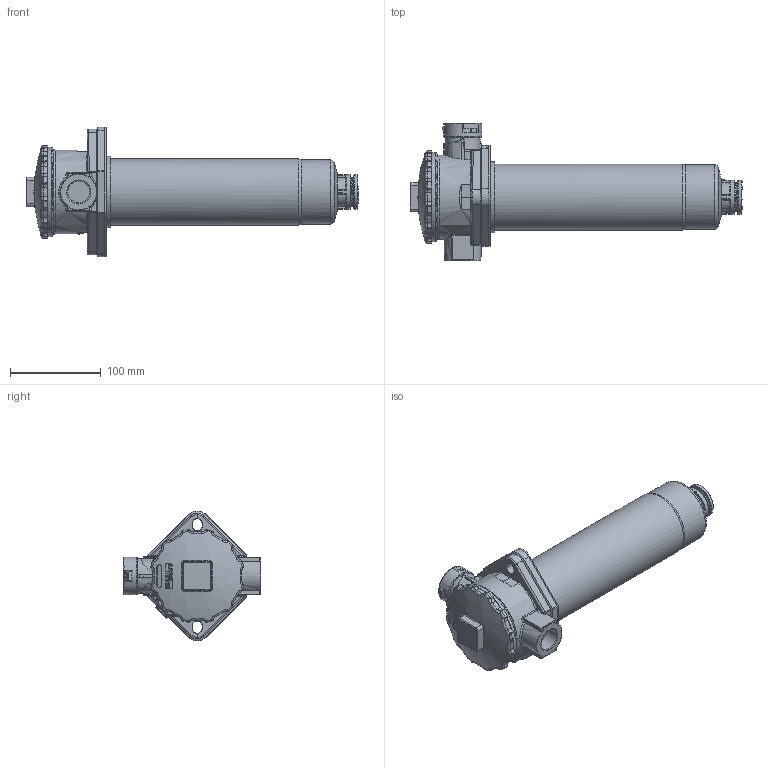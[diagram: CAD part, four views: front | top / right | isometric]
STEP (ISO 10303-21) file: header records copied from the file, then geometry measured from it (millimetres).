
FILE_DESCRIPTION((''),'2;1');
FILE_NAME('U:\Users\r.stiegele\13313300(317433).stp', '2014-02-26T13:33:14',('User'),('SDRC'),'I-DEAS Master Series 9','UNIX', 'Yes');
FILE_SCHEMA(('AUTOMOTIVE_DESIGN { 1 0 10303 214 1 1 1 1 }'));
Length unit declared in the file: millimetre
Products named in the file (1): 13313300(317433)
Bounding box: 365 x 151.5 x 142.65 mm (x, y, z)
Volume: 1715456.1 mm3; surface area: 136997.4 mm2
Topology: 1 solids, 7 shells, 1171 faces, 3042 edges, 1855 vertices
Faces by surface type: bspline 1171
Entity records: 42303 total; most frequent: CARTESIAN_POINT 25290, ORIENTED_EDGE 5976, EDGE_CURVE 2988, VERTEX_POINT 1855, B_SPLINE_CURVE_WITH_KNOTS 1643, EDGE_LOOP 1209, FACE_OUTER_BOUND 1171, ADVANCED_FACE 1171
